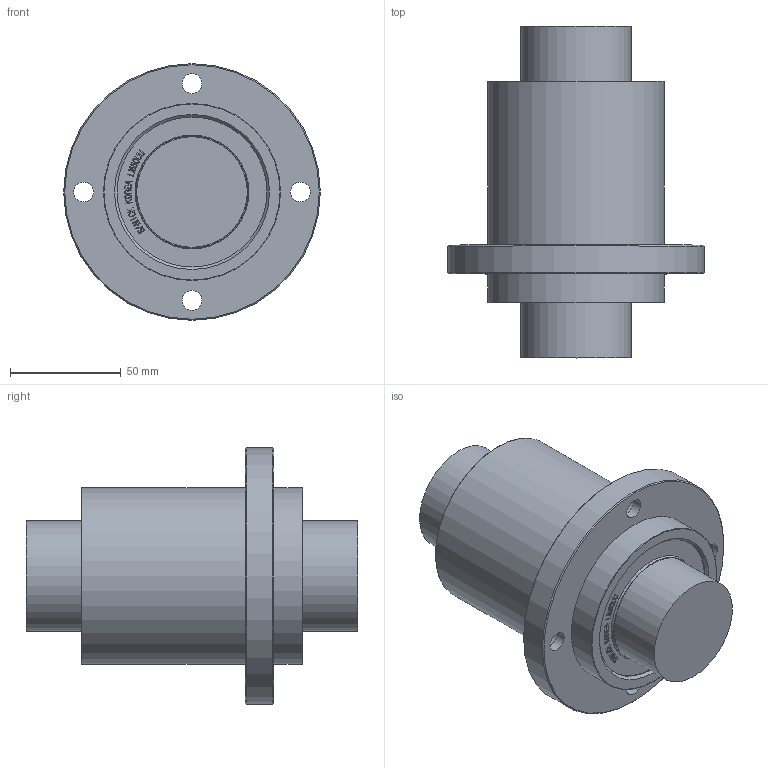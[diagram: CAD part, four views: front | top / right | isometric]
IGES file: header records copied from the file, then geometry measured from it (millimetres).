
Global section: file name: No Iges File Name specified; native system: Autodesk Inventor 2012; preprocessor: AutoDesk Inventor Iges Exporter R2012; author: user2; date: 20130206.161631; units: millimetre
Bounding box: 116 x 150 x 116 mm (x, y, z)
Volume: 660691.4 mm3; surface area: 57766.1 mm2
Topology: 1 solids, 1 shells, 851 faces, 2375 edges, 1582 vertices
Faces by surface type: bspline 600, plane 228, revolution 12, cylinder 5, cone 4, torus 2
Full cylindrical faces by diameter (mm): 50 x2, 80 x2, 116 x1
